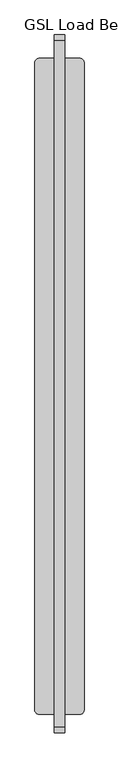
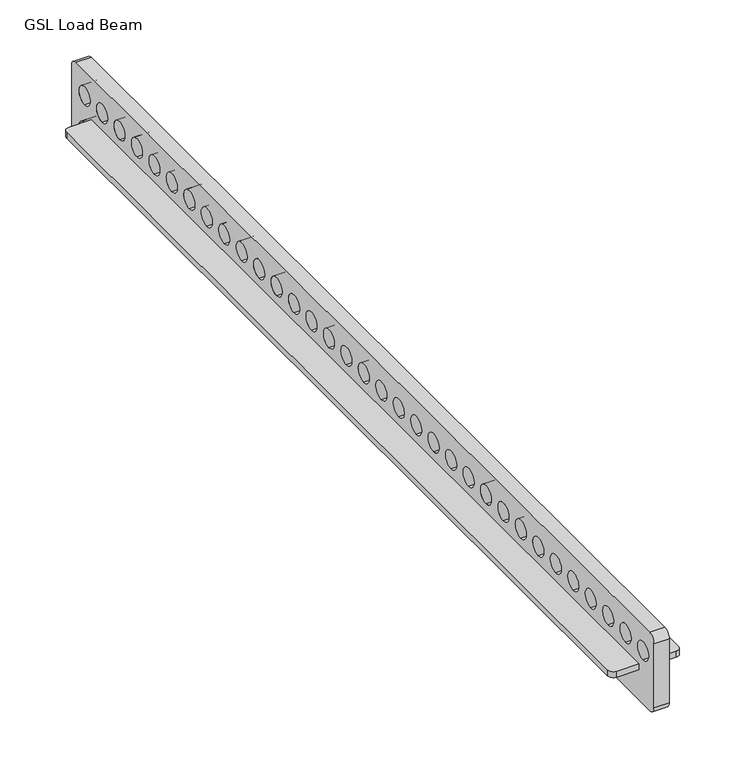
"""IFC4 building model written with IfcOpenShell, lengths in millimetres: proxy geometry, d&b SL-Series GSL Load Beam : GSL Load Beam."""

from ifc_helpers import new_model, si_unit, point, frame, frame_2d, origin, place, context, project, spatial, polyline, circle_curve, trimmed, segment, composite_curve, outline, extrude, source, transform, mapped, element, save


def gsl_load_beam_2b40e9ae(model_context):
    return source(origin(), model_context, "Body", "SweptSolid", [
        extrude(outline(composite_curve([segment(trimmed(circle_curve(frame_2d((39.3, -93.3045722)), 7.7), [point((47.0, -93.3045722))], [point((39.3, -101.0045722))], False, "CARTESIAN"), True, "CONTINUOUS"), segment(polyline([(39.3, -101.0045722), (10.0, -101.0045722), (10.0, 1153.9954278), (39.3, 1153.9954278)]), True, "CONTINUOUS"), segment(trimmed(circle_curve(frame_2d((39.3, 1146.2954278)), 7.7), [point((39.3, 1153.9954278))], [point((47.0, 1146.2954278))], False, "CARTESIAN"), True, "CONTINUOUS"), segment(polyline([(47.0, 1146.2954278), (47.0, -93.3045722)]), True, "CONTINUOUS")], self_intersect=False)), frame((0.0, 0.0, 137.8), z_axis=(0.0, 0.0, 1.0), x_axis=(1.0, 0.0, 0.0)), (0.0, 0.0, 1.0), 8.4),
        extrude(outline(composite_curve([segment(trimmed(circle_curve(frame_2d((-39.3, -93.3045722)), 7.7), [point((-39.3, -101.0045722))], [point((-47.0, -93.3045722))], False, "CARTESIAN"), True, "CONTINUOUS"), segment(polyline([(-47.0, -93.3045722), (-47.0, 1146.2954278)]), True, "CONTINUOUS"), segment(trimmed(circle_curve(frame_2d((-39.3, 1146.2954278)), 7.7), [point((-47.0, 1146.2954278))], [point((-39.3, 1153.9954278))], False, "CARTESIAN"), True, "CONTINUOUS"), segment(polyline([(-39.3, 1153.9954278), (-10.0, 1153.9954278), (-10.0, -101.0045722), (-39.3, -101.0045722)]), True, "CONTINUOUS")], self_intersect=False)), frame((0.0, 0.0, 137.8), z_axis=(0.0, 0.0, 1.0), x_axis=(1.0, 0.0, 0.0)), (0.0, 0.0, 1.0), 8.4),
        extrude(outline(composite_curve([segment(polyline([(-126.0045722, 205.5), (1188.9954278, 205.5)]), True, "CONTINUOUS"), segment(trimmed(circle_curve(frame_2d((1188.9954278, 195.5)), 10.0), [point((1188.9954278, 205.5))], [point((1198.9954278, 195.5))], False, "CARTESIAN"), True, "CONTINUOUS"), segment(polyline([(1198.9954278, 195.5), (1198.9954278, 105.5)]), True, "CONTINUOUS"), segment(trimmed(circle_curve(frame_2d((1188.9954278, 105.5)), 10.0), [point((1198.9954278, 105.5))], [point((1188.9954278, 95.5))], False, "CARTESIAN"), True, "CONTINUOUS"), segment(polyline([(1188.9954278, 95.5), (-126.0045722, 95.5)]), True, "CONTINUOUS"), segment(trimmed(circle_curve(frame_2d((-126.0045722, 105.5)), 10.0), [point((-126.0045722, 95.5))], [point((-136.0045722, 105.5))], False, "CARTESIAN"), True, "CONTINUOUS"), segment(polyline([(-136.0045722, 105.5), (-136.0045722, 195.5)]), True, "CONTINUOUS"), segment(trimmed(circle_curve(frame_2d((-126.0045722, 195.5)), 10.0), [point((-136.0045722, 195.5))], [point((-126.0045722, 205.5))], False, "CARTESIAN"), True, "CONTINUOUS")], self_intersect=False), holes=[composite_curve([segment(trimmed(circle_curve(frame_2d((1168.9954278, 170.5)), 12.5), [point((1168.9954278, 158.0))], [point((1168.9954278, 183.0))], True, "CARTESIAN"), True, "CONTINUOUS"), segment(trimmed(circle_curve(frame_2d((1168.9954278, 170.5)), 12.5), [point((1168.9954278, 183.0))], [point((1168.9954278, 158.0))], True, "CARTESIAN"), True, "CONTINUOUS")], self_intersect=False), composite_curve([segment(trimmed(circle_curve(frame_2d((1168.9954278, 120.5)), 12.5), [point((1168.9954278, 108.0))], [point((1168.9954278, 133.0))], True, "CARTESIAN"), True, "CONTINUOUS"), segment(trimmed(circle_curve(frame_2d((1168.9954278, 120.5)), 12.5), [point((1168.9954278, 133.0))], [point((1168.9954278, 108.0))], True, "CARTESIAN"), True, "CONTINUOUS")], self_intersect=False), composite_curve([segment(trimmed(circle_curve(frame_2d((1128.9954278, 170.5)), 12.5), [point((1128.9954278, 158.0))], [point((1128.9954278, 183.0))], True, "CARTESIAN"), True, "CONTINUOUS"), segment(trimmed(circle_curve(frame_2d((1128.9954278, 170.5)), 12.5), [point((1128.9954278, 183.0))], [point((1128.9954278, 158.0))], True, "CARTESIAN"), True, "CONTINUOUS")], self_intersect=False), composite_curve([segment(trimmed(circle_curve(frame_2d((1088.9954278, 170.5)), 12.5), [point((1088.9954278, 158.0))], [point((1088.9954278, 183.0))], True, "CARTESIAN"), True, "CONTINUOUS"), segment(trimmed(circle_curve(frame_2d((1088.9954278, 170.5)), 12.5), [point((1088.9954278, 183.0))], [point((1088.9954278, 158.0))], True, "CARTESIAN"), True, "CONTINUOUS")], self_intersect=False), composite_curve([segment(trimmed(circle_curve(frame_2d((1048.9954278, 170.5)), 12.5), [point((1048.9954278, 158.0))], [point((1048.9954278, 183.0))], True, "CARTESIAN"), True, "CONTINUOUS"), segment(trimmed(circle_curve(frame_2d((1048.9954278, 170.5)), 12.5), [point((1048.9954278, 183.0))], [point((1048.9954278, 158.0))], True, "CARTESIAN"), True, "CONTINUOUS")], self_intersect=False), composite_curve([segment(trimmed(circle_curve(frame_2d((1008.9954278, 170.5)), 12.5), [point((1008.9954278, 158.0))], [point((1008.9954278, 183.0))], True, "CARTESIAN"), True, "CONTINUOUS"), segment(trimmed(circle_curve(frame_2d((1008.9954278, 170.5)), 12.5), [point((1008.9954278, 183.0))], [point((1008.9954278, 158.0))], True, "CARTESIAN"), True, "CONTINUOUS")], self_intersect=False), composite_curve([segment(trimmed(circle_curve(frame_2d((848.9954278, 170.5)), 12.5), [point((848.9954278, 158.0))], [point((848.9954278, 183.0))], True, "CARTESIAN"), True, "CONTINUOUS"), segment(trimmed(circle_curve(frame_2d((848.9954278, 170.5)), 12.5), [point((848.9954278, 183.0))], [point((848.9954278, 158.0))], True, "CARTESIAN"), True, "CONTINUOUS")], self_intersect=False), composite_curve([segment(trimmed(circle_curve(frame_2d((888.9954278, 170.5)), 12.5), [point((888.9954278, 158.0))], [point((888.9954278, 183.0))], True, "CARTESIAN"), True, "CONTINUOUS"), segment(trimmed(circle_curve(frame_2d((888.9954278, 170.5)), 12.5), [point((888.9954278, 183.0))], [point((888.9954278, 158.0))], True, "CARTESIAN"), True, "CONTINUOUS")], self_intersect=False), composite_curve([segment(trimmed(circle_curve(frame_2d((928.9954278, 170.5)), 12.5), [point((928.9954278, 158.0))], [point((928.9954278, 183.0))], True, "CARTESIAN"), True, "CONTINUOUS"), segment(trimmed(circle_curve(frame_2d((928.9954278, 170.5)), 12.5), [point((928.9954278, 183.0))], [point((928.9954278, 158.0))], True, "CARTESIAN"), True, "CONTINUOUS")], self_intersect=False), composite_curve([segment(trimmed(circle_curve(frame_2d((968.9954278, 170.5)), 12.5), [point((968.9954278, 158.0))], [point((968.9954278, 183.0))], True, "CARTESIAN"), True, "CONTINUOUS"), segment(trimmed(circle_curve(frame_2d((968.9954278, 170.5)), 12.5), [point((968.9954278, 183.0))], [point((968.9954278, 158.0))], True, "CARTESIAN"), True, "CONTINUOUS")], self_intersect=False), composite_curve([segment(trimmed(circle_curve(frame_2d((528.9954278, 170.5)), 12.5), [point((528.9954278, 158.0))], [point((528.9954278, 183.0))], True, "CARTESIAN"), True, "CONTINUOUS"), segment(trimmed(circle_curve(frame_2d((528.9954278, 170.5)), 12.5), [point((528.9954278, 183.0))], [point((528.9954278, 158.0))], True, "CARTESIAN"), True, "CONTINUOUS")], self_intersect=False), composite_curve([segment(trimmed(circle_curve(frame_2d((568.9954278, 170.5)), 12.5), [point((568.9954278, 158.0))], [point((568.9954278, 183.0))], True, "CARTESIAN"), True, "CONTINUOUS"), segment(trimmed(circle_curve(frame_2d((568.9954278, 170.5)), 12.5), [point((568.9954278, 183.0))], [point((568.9954278, 158.0))], True, "CARTESIAN"), True, "CONTINUOUS")], self_intersect=False), composite_curve([segment(trimmed(circle_curve(frame_2d((608.9954278, 170.5)), 12.5), [point((608.9954278, 158.0))], [point((608.9954278, 183.0))], True, "CARTESIAN"), True, "CONTINUOUS"), segment(trimmed(circle_curve(frame_2d((608.9954278, 170.5)), 12.5), [point((608.9954278, 183.0))], [point((608.9954278, 158.0))], True, "CARTESIAN"), True, "CONTINUOUS")], self_intersect=False), composite_curve([segment(trimmed(circle_curve(frame_2d((648.9954278, 170.5)), 12.5), [point((648.9954278, 158.0))], [point((648.9954278, 183.0))], True, "CARTESIAN"), True, "CONTINUOUS"), segment(trimmed(circle_curve(frame_2d((648.9954278, 170.5)), 12.5), [point((648.9954278, 183.0))], [point((648.9954278, 158.0))], True, "CARTESIAN"), True, "CONTINUOUS")], self_intersect=False), composite_curve([segment(trimmed(circle_curve(frame_2d((688.9954278, 170.5)), 12.5), [point((688.9954278, 158.0))], [point((688.9954278, 183.0))], True, "CARTESIAN"), True, "CONTINUOUS"), segment(trimmed(circle_curve(frame_2d((688.9954278, 170.5)), 12.5), [point((688.9954278, 183.0))], [point((688.9954278, 158.0))], True, "CARTESIAN"), True, "CONTINUOUS")], self_intersect=False), composite_curve([segment(trimmed(circle_curve(frame_2d((808.9954278, 170.5)), 12.5), [point((808.9954278, 158.0))], [point((808.9954278, 183.0))], True, "CARTESIAN"), True, "CONTINUOUS"), segment(trimmed(circle_curve(frame_2d((808.9954278, 170.5)), 12.5), [point((808.9954278, 183.0))], [point((808.9954278, 158.0))], True, "CARTESIAN"), True, "CONTINUOUS")], self_intersect=False), composite_curve([segment(trimmed(circle_curve(frame_2d((768.9954278, 170.5)), 12.5), [point((768.9954278, 158.0))], [point((768.9954278, 183.0))], True, "CARTESIAN"), True, "CONTINUOUS"), segment(trimmed(circle_curve(frame_2d((768.9954278, 170.5)), 12.5), [point((768.9954278, 183.0))], [point((768.9954278, 158.0))], True, "CARTESIAN"), True, "CONTINUOUS")], self_intersect=False), composite_curve([segment(trimmed(circle_curve(frame_2d((728.9954278, 170.5)), 12.5), [point((728.9954278, 158.0))], [point((728.9954278, 183.0))], True, "CARTESIAN"), True, "CONTINUOUS"), segment(trimmed(circle_curve(frame_2d((728.9954278, 170.5)), 12.5), [point((728.9954278, 183.0))], [point((728.9954278, 158.0))], True, "CARTESIAN"), True, "CONTINUOUS")], self_intersect=False), composite_curve([segment(trimmed(circle_curve(frame_2d((-111.0045722, 170.5)), 12.5), [point((-111.0045722, 158.0))], [point((-111.0045722, 183.0))], True, "CARTESIAN"), True, "CONTINUOUS"), segment(trimmed(circle_curve(frame_2d((-111.0045722, 170.5)), 12.5), [point((-111.0045722, 183.0))], [point((-111.0045722, 158.0))], True, "CARTESIAN"), True, "CONTINUOUS")], self_intersect=False), composite_curve([segment(trimmed(circle_curve(frame_2d((-71.0045722, 170.5)), 12.5), [point((-71.0045722, 158.0))], [point((-71.0045722, 183.0))], True, "CARTESIAN"), True, "CONTINUOUS"), segment(trimmed(circle_curve(frame_2d((-71.0045722, 170.5)), 12.5), [point((-71.0045722, 183.0))], [point((-71.0045722, 158.0))], True, "CARTESIAN"), True, "CONTINUOUS")], self_intersect=False), composite_curve([segment(trimmed(circle_curve(frame_2d((-31.0045722, 170.5)), 12.5), [point((-31.0045722, 158.0))], [point((-31.0045722, 183.0))], True, "CARTESIAN"), True, "CONTINUOUS"), segment(trimmed(circle_curve(frame_2d((-31.0045722, 170.5)), 12.5), [point((-31.0045722, 183.0))], [point((-31.0045722, 158.0))], True, "CARTESIAN"), True, "CONTINUOUS")], self_intersect=False), composite_curve([segment(trimmed(circle_curve(frame_2d((8.9954278, 170.5)), 12.5), [point((8.9954278, 158.0))], [point((8.9954278, 183.0))], True, "CARTESIAN"), True, "CONTINUOUS"), segment(trimmed(circle_curve(frame_2d((8.9954278, 170.5)), 12.5), [point((8.9954278, 183.0))], [point((8.9954278, 158.0))], True, "CARTESIAN"), True, "CONTINUOUS")], self_intersect=False), composite_curve([segment(trimmed(circle_curve(frame_2d((48.9954278, 170.5)), 12.5), [point((48.9954278, 158.0))], [point((48.9954278, 183.0))], True, "CARTESIAN"), True, "CONTINUOUS"), segment(trimmed(circle_curve(frame_2d((48.9954278, 170.5)), 12.5), [point((48.9954278, 183.0))], [point((48.9954278, 158.0))], True, "CARTESIAN"), True, "CONTINUOUS")], self_intersect=False), composite_curve([segment(trimmed(circle_curve(frame_2d((208.9954278, 170.5)), 12.5), [point((208.9954278, 158.0))], [point((208.9954278, 183.0))], True, "CARTESIAN"), True, "CONTINUOUS"), segment(trimmed(circle_curve(frame_2d((208.9954278, 170.5)), 12.5), [point((208.9954278, 183.0))], [point((208.9954278, 158.0))], True, "CARTESIAN"), True, "CONTINUOUS")], self_intersect=False), composite_curve([segment(trimmed(circle_curve(frame_2d((168.9954278, 170.5)), 12.5), [point((168.9954278, 158.0))], [point((168.9954278, 183.0))], True, "CARTESIAN"), True, "CONTINUOUS"), segment(trimmed(circle_curve(frame_2d((168.9954278, 170.5)), 12.5), [point((168.9954278, 183.0))], [point((168.9954278, 158.0))], True, "CARTESIAN"), True, "CONTINUOUS")], self_intersect=False), composite_curve([segment(trimmed(circle_curve(frame_2d((128.9954278, 170.5)), 12.5), [point((128.9954278, 158.0))], [point((128.9954278, 183.0))], True, "CARTESIAN"), True, "CONTINUOUS"), segment(trimmed(circle_curve(frame_2d((128.9954278, 170.5)), 12.5), [point((128.9954278, 183.0))], [point((128.9954278, 158.0))], True, "CARTESIAN"), True, "CONTINUOUS")], self_intersect=False), composite_curve([segment(trimmed(circle_curve(frame_2d((88.9954278, 170.5)), 12.5), [point((88.9954278, 158.0))], [point((88.9954278, 183.0))], True, "CARTESIAN"), True, "CONTINUOUS"), segment(trimmed(circle_curve(frame_2d((88.9954278, 170.5)), 12.5), [point((88.9954278, 183.0))], [point((88.9954278, 158.0))], True, "CARTESIAN"), True, "CONTINUOUS")], self_intersect=False), composite_curve([segment(trimmed(circle_curve(frame_2d((488.9954278, 170.5)), 12.5), [point((488.9954278, 158.0))], [point((488.9954278, 183.0))], True, "CARTESIAN"), True, "CONTINUOUS"), segment(trimmed(circle_curve(frame_2d((488.9954278, 170.5)), 12.5), [point((488.9954278, 183.0))], [point((488.9954278, 158.0))], True, "CARTESIAN"), True, "CONTINUOUS")], self_intersect=False), composite_curve([segment(trimmed(circle_curve(frame_2d((448.9954278, 170.5)), 12.5), [point((448.9954278, 158.0))], [point((448.9954278, 183.0))], True, "CARTESIAN"), True, "CONTINUOUS"), segment(trimmed(circle_curve(frame_2d((448.9954278, 170.5)), 12.5), [point((448.9954278, 183.0))], [point((448.9954278, 158.0))], True, "CARTESIAN"), True, "CONTINUOUS")], self_intersect=False), composite_curve([segment(trimmed(circle_curve(frame_2d((408.9954278, 170.5)), 12.5), [point((408.9954278, 158.0))], [point((408.9954278, 183.0))], True, "CARTESIAN"), True, "CONTINUOUS"), segment(trimmed(circle_curve(frame_2d((408.9954278, 170.5)), 12.5), [point((408.9954278, 183.0))], [point((408.9954278, 158.0))], True, "CARTESIAN"), True, "CONTINUOUS")], self_intersect=False), composite_curve([segment(trimmed(circle_curve(frame_2d((368.9954278, 170.5)), 12.5), [point((368.9954278, 158.0))], [point((368.9954278, 183.0))], True, "CARTESIAN"), True, "CONTINUOUS"), segment(trimmed(circle_curve(frame_2d((368.9954278, 170.5)), 12.5), [point((368.9954278, 183.0))], [point((368.9954278, 158.0))], True, "CARTESIAN"), True, "CONTINUOUS")], self_intersect=False), composite_curve([segment(trimmed(circle_curve(frame_2d((248.9954278, 170.5)), 12.5), [point((248.9954278, 158.0))], [point((248.9954278, 183.0))], True, "CARTESIAN"), True, "CONTINUOUS"), segment(trimmed(circle_curve(frame_2d((248.9954278, 170.5)), 12.5), [point((248.9954278, 183.0))], [point((248.9954278, 158.0))], True, "CARTESIAN"), True, "CONTINUOUS")], self_intersect=False), composite_curve([segment(trimmed(circle_curve(frame_2d((288.9954278, 170.5)), 12.5), [point((288.9954278, 158.0))], [point((288.9954278, 183.0))], True, "CARTESIAN"), True, "CONTINUOUS"), segment(trimmed(circle_curve(frame_2d((288.9954278, 170.5)), 12.5), [point((288.9954278, 183.0))], [point((288.9954278, 158.0))], True, "CARTESIAN"), True, "CONTINUOUS")], self_intersect=False), composite_curve([segment(trimmed(circle_curve(frame_2d((328.9954278, 170.5)), 12.5), [point((328.9954278, 158.0))], [point((328.9954278, 183.0))], True, "CARTESIAN"), True, "CONTINUOUS"), segment(trimmed(circle_curve(frame_2d((328.9954278, 170.5)), 12.5), [point((328.9954278, 183.0))], [point((328.9954278, 158.0))], True, "CARTESIAN"), True, "CONTINUOUS")], self_intersect=False), composite_curve([segment(trimmed(circle_curve(frame_2d((952.9954278, 115.5)), 8.5), [point((952.9954278, 107.0))], [point((952.9954278, 124.0))], True, "CARTESIAN"), True, "CONTINUOUS"), segment(trimmed(circle_curve(frame_2d((952.9954278, 115.5)), 8.5), [point((952.9954278, 124.0))], [point((952.9954278, 107.0))], True, "CARTESIAN"), True, "CONTINUOUS")], self_intersect=False), composite_curve([segment(trimmed(circle_curve(frame_2d((1008.9954278, 118.5)), 10.5), [point((1008.9954278, 108.0))], [point((1008.9954278, 129.0))], True, "CARTESIAN"), True, "CONTINUOUS"), segment(trimmed(circle_curve(frame_2d((1008.9954278, 118.5)), 10.5), [point((1008.9954278, 129.0))], [point((1008.9954278, 108.0))], True, "CARTESIAN"), True, "CONTINUOUS")], self_intersect=False), composite_curve([segment(trimmed(circle_curve(frame_2d((1075.9954278, 115.5)), 8.5), [point((1075.9954278, 107.0))], [point((1075.9954278, 124.0))], True, "CARTESIAN"), True, "CONTINUOUS"), segment(trimmed(circle_curve(frame_2d((1075.9954278, 115.5)), 8.5), [point((1075.9954278, 124.0))], [point((1075.9954278, 107.0))], True, "CARTESIAN"), True, "CONTINUOUS")], self_intersect=False), composite_curve([segment(trimmed(circle_curve(frame_2d((560.0045722, 115.5)), 8.2930381), [point((568.2976103, 115.5))], [point((551.711534, 115.5))], True, "CARTESIAN"), True, "CONTINUOUS"), segment(trimmed(circle_curve(frame_2d((560.0045722, 115.5)), 8.2930381), [point((551.711534, 115.5))], [point((568.2976103, 115.5))], True, "CARTESIAN"), True, "CONTINUOUS")], self_intersect=False), composite_curve([segment(trimmed(circle_curve(frame_2d((43.9954278, 115.5)), 8.2930381), [point((35.7023897, 115.5))], [point((52.288466, 115.5))], True, "CARTESIAN"), True, "CONTINUOUS"), segment(trimmed(circle_curve(frame_2d((43.9954278, 115.5)), 8.2930381), [point((52.288466, 115.5))], [point((35.7023897, 115.5))], True, "CARTESIAN"), True, "CONTINUOUS")], self_intersect=False)]), frame((-10.0, 0.0, 0.0), z_axis=(1.0, 0.0, 0.0), x_axis=(0.0, 1.0, 0.0)), (0.0, 0.0, 1.0), 20.0),
    ])


if __name__ == "__main__":
    model = new_model("IFC4")
    model_context = context("Model", 3, world=origin())
    ifc_project = project(units=[si_unit("LENGTHUNIT", "METRE", prefix="MILLI")], contexts=[model_context])
    site = spatial("IfcSite", under=ifc_project)
    building = spatial("IfcBuilding", under=site)
    placement = place(None, origin())
    gsl_load_beam_shape = gsl_load_beam_2b40e9ae(model_context)
    element("IfcBuildingElementProxy", 1, Name="d&b SL-Series GSL Load Beam : GSL Load Beam", ObjectType="d&b SL-Series GSL Load Beam : GSL Load Beam", at=placement, inside=building, context=model_context, shape_type="MappedRepresentation", body=[
        mapped(gsl_load_beam_shape, transform((0.0, 0.0, 0.0), x_axis=(1.0, 0.0, 0.0), y_axis=(0.0, 1.0, 0.0), z_axis=(0.0, 0.0, 1.0))),
    ])
    save(model, "model.ifc")
